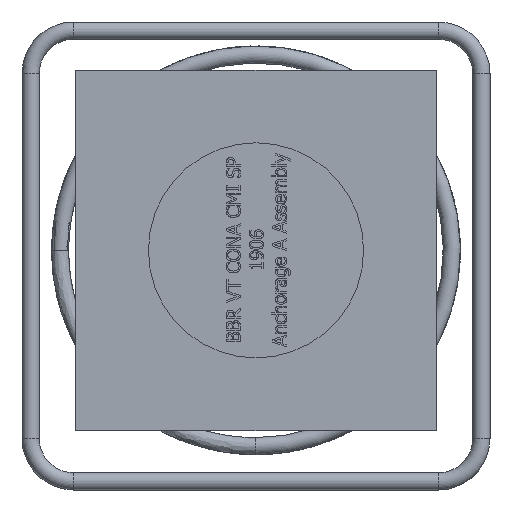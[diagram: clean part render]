
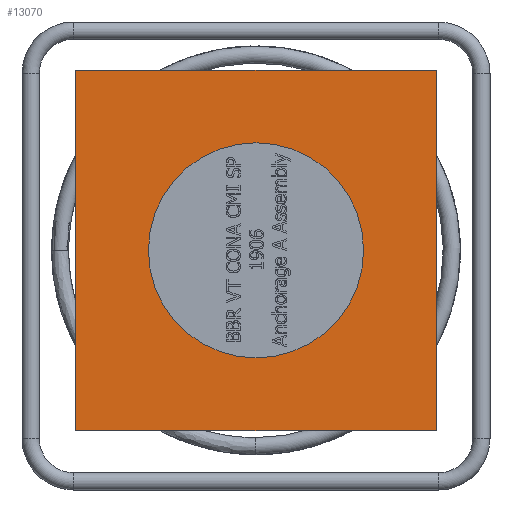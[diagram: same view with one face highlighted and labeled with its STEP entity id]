
A CAD part, left-side view. The second image highlights one B-rep face of the part: STEP entity #13070.
In plain terms, the highlighted planar face has unit normal (-1, 0, 0).
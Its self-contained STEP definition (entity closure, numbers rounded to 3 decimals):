
#1966=LINE('',#26733,#3023);
#1970=LINE('',#26740,#3027);
#1973=LINE('',#26745,#3030);
#1976=LINE('',#26749,#3033);
#3023=VECTOR('',#15536,335.);
#3027=VECTOR('',#15542,335.);
#3030=VECTOR('',#15547,335.);
#3033=VECTOR('',#15552,335.);
#3347=PLANE('',#13553);
#3526=FACE_BOUND('',#5051,.T.);
#4225=FACE_OUTER_BOUND('',#5050,.T.);
#5050=EDGE_LOOP('',(#11594,#11595,#11596,#11597));
#5051=EDGE_LOOP('',(#11598));
#5143=CIRCLE('',#13515,100.);
#6328=VERTEX_POINT('',#23045);
#6353=VERTEX_POINT('',#26731);
#6354=VERTEX_POINT('',#26732);
#6356=VERTEX_POINT('',#26739);
#6357=VERTEX_POINT('',#26744);
#8072=EDGE_CURVE('',#6328,#6328,#5143,.T.);
#8099=EDGE_CURVE('',#6353,#6354,#1966,.T.);
#8103=EDGE_CURVE('',#6354,#6356,#1970,.T.);
#8106=EDGE_CURVE('',#6356,#6357,#1973,.T.);
#8109=EDGE_CURVE('',#6357,#6353,#1976,.T.);
#11594=ORIENTED_EDGE('',*,*,#8109,.T.);
#11595=ORIENTED_EDGE('',*,*,#8099,.T.);
#11596=ORIENTED_EDGE('',*,*,#8103,.T.);
#11597=ORIENTED_EDGE('',*,*,#8106,.T.);
#11598=ORIENTED_EDGE('',*,*,#8072,.T.);
#13070=ADVANCED_FACE('',(#4225,#3526),#3347,.T.);
#13515=AXIS2_PLACEMENT_3D('',#23046,#15460,#15461);
#13553=AXIS2_PLACEMENT_3D('',#26751,#15554,#15555);
#15460=DIRECTION('center_axis',(1.,0.,0.));
#15461=DIRECTION('ref_axis',(0.,0.,
1.));
#15536=DIRECTION('',(0.,0.,-1.));
#15542=DIRECTION('',(0.,-1.,0.));
#15547=DIRECTION('',(0.,0.,1.));
#15552=DIRECTION('',(0.,1.,0.));
#15554=DIRECTION('center_axis',(-1.,0.,0.));
#15555=DIRECTION('ref_axis',(0.,0.,-1.));
#23045=CARTESIAN_POINT('',(-112.151,-100.,5.253));
#23046=CARTESIAN_POINT('Origin',(-112.151,0.,
5.253));
#26731=CARTESIAN_POINT('',(-112.151,167.5,172.753));
#26732=CARTESIAN_POINT('',(-112.151,167.5,-162.247));
#26733=CARTESIAN_POINT('',(-112.151,167.5,172.753));
#26739=CARTESIAN_POINT('',(-112.151,-167.5,-162.247));
#26740=CARTESIAN_POINT('',(-112.151,167.5,-162.247));
#26744=CARTESIAN_POINT('',(-112.151,-167.5,172.753));
#26745=CARTESIAN_POINT('',(-112.151,-167.5,-162.247));
#26749=CARTESIAN_POINT('',(-112.151,-167.5,172.753));
#26751=CARTESIAN_POINT('Origin',(-112.151,0.,
5.253));
